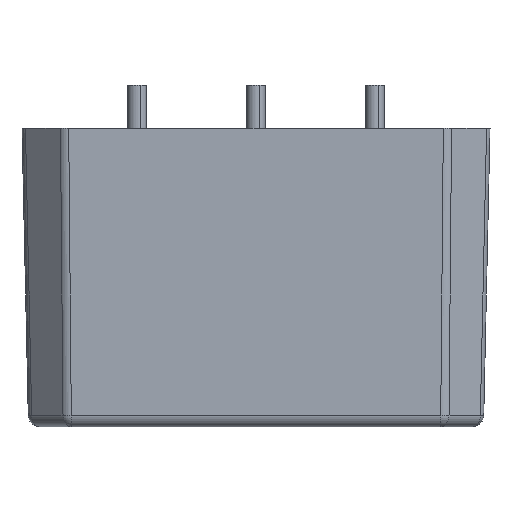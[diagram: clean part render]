
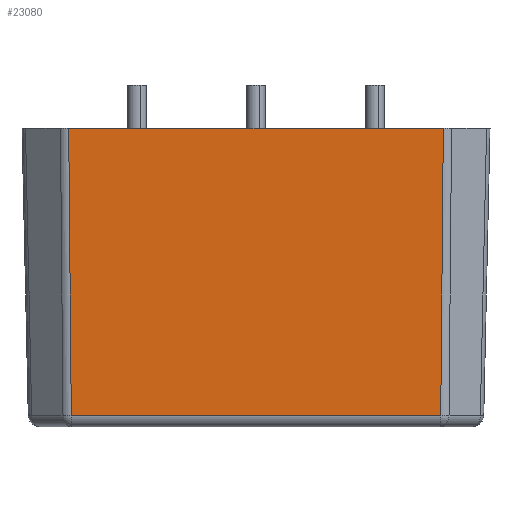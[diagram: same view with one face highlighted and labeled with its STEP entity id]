
A CAD part, left-side view. The second image highlights one B-rep face of the part: STEP entity #23080.
In plain terms, the highlighted planar face has unit normal (-1, 0, -0.022).
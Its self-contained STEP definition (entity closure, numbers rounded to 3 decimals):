
#94 = EDGE_LOOP ( 'NONE', ( #1469, #12768, #25862, #25189 ) ) ;
#585 = DIRECTION ( 'NONE',  ( 0., -1., 0. ) ) ;
#1029 = VERTEX_POINT ( 'NONE', #19336 ) ;
#1406 = VERTEX_POINT ( 'NONE', #9713 ) ;
#1469 = ORIENTED_EDGE ( 'NONE', *, *, #15287, .T. ) ;
#2589 = VECTOR ( 'NONE', #585, 1000. ) ;
#2852 = LINE ( 'NONE', #8947, #20219 ) ;
#3837 = EDGE_CURVE ( 'NONE', #19147, #1406, #19331, .T. ) ;
#3993 = DIRECTION ( 'NONE',  ( 0.022, -0.009, -1. ) ) ;
#4534 = FACE_OUTER_BOUND ( 'NONE', #94, .T. ) ;
#6377 = VECTOR ( 'NONE', #3993, 1000. ) ;
#7569 = LINE ( 'NONE', #12001, #14349 ) ;
#8562 = LINE ( 'NONE', #10404, #6377 ) ;
#8947 = CARTESIAN_POINT ( 'NONE',  ( -80.781, -26.071, -10.42 ) ) ;
#9362 = AXIS2_PLACEMENT_3D ( 'NONE', #16381, #15118, #18629 ) ;
#9713 = CARTESIAN_POINT ( 'NONE',  ( -81.316, -26.183, 14.102 ) ) ;
#10033 = CARTESIAN_POINT ( 'NONE',  ( -80.781, -25.961, -10.42 ) ) ;
#10404 = CARTESIAN_POINT ( 'NONE',  ( -81.316, 5.839, 14.102 ) ) ;
#12001 = CARTESIAN_POINT ( 'NONE',  ( -80.781, -25.961, -10.42 ) ) ;
#12768 = ORIENTED_EDGE ( 'NONE', *, *, #3837, .F. ) ;
#12951 = CARTESIAN_POINT ( 'NONE',  ( -81.316, 5.949, 14.102 ) ) ;
#13204 = EDGE_CURVE ( 'NONE', #23622, #1029, #2852, .T. ) ;
#14349 = VECTOR ( 'NONE', #20737, 1000. ) ;
#15118 = DIRECTION ( 'NONE',  ( -1., 0., -0.022 ) ) ;
#15287 = EDGE_CURVE ( 'NONE', #23622, #1406, #7569, .T. ) ;
#16381 = CARTESIAN_POINT ( 'NONE',  ( -80.76, 13.57, -11.398 ) ) ;
#18629 = DIRECTION ( 'NONE',  ( -0.022, 0., 1. ) ) ;
#19147 = VERTEX_POINT ( 'NONE', #21888 ) ;
#19331 = LINE ( 'NONE', #12951, #2589 ) ;
#19336 = CARTESIAN_POINT ( 'NONE',  ( -80.781, 5.617, -10.42 ) ) ;
#20219 = VECTOR ( 'NONE', #26086, 1000. ) ;
#20690 = PLANE ( 'NONE',  #9362 ) ;
#20737 = DIRECTION ( 'NONE',  ( -0.022, -0.009, 1. ) ) ;
#21888 = CARTESIAN_POINT ( 'NONE',  ( -81.316, 5.839, 14.102 ) ) ;
#23080 = ADVANCED_FACE ( 'NONE', ( #4534 ), #20690, .T. ) ;
#23622 = VERTEX_POINT ( 'NONE', #10033 ) ;
#25189 = ORIENTED_EDGE ( 'NONE', *, *, #13204, .F. ) ;
#25661 = EDGE_CURVE ( 'NONE', #19147, #1029, #8562, .T. ) ;
#25862 = ORIENTED_EDGE ( 'NONE', *, *, #25661, .T. ) ;
#26086 = DIRECTION ( 'NONE',  ( 0., 1., 0. ) ) ;
